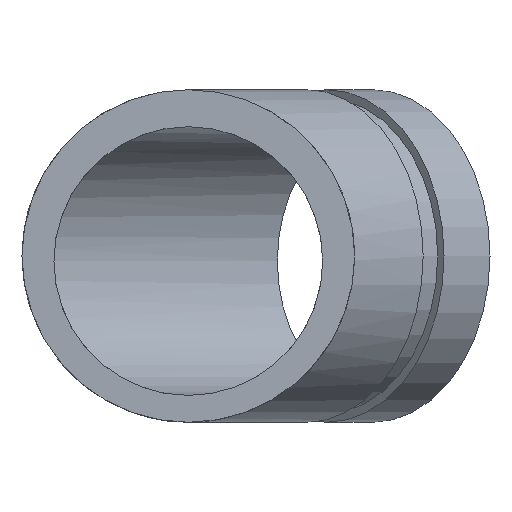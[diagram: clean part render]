
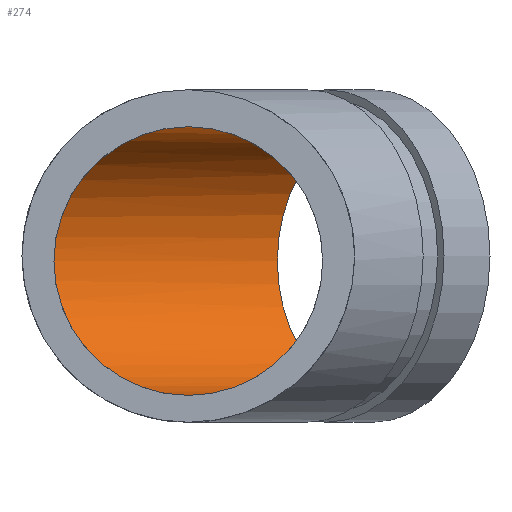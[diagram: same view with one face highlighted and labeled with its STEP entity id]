
A CAD part, front view. The second image highlights one B-rep face of the part: STEP entity #274.
In plain terms, the highlighted cylindrical face has radius 29.502 mm (diameter 59.004 mm), a full revolution.
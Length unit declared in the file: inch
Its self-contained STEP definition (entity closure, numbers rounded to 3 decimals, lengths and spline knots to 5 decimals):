
#45=ELLIPSE('',#322,1.2572,1.1615);
#46=ELLIPSE('',#323,1.2572,1.1615);
#47=ELLIPSE('',#324,1.2572,1.1615);
#72=FACE_OUTER_BOUND('',#90,.T.);
#90=EDGE_LOOP('',(#219,#220,#221,#222,#223,#224));
#102=LINE('',#510,#110);
#110=VECTOR('',#413,1.1615);
#128=CIRCLE('',#327,1.1615);
#143=VERTEX_POINT('',#498);
#144=VERTEX_POINT('',#499);
#145=VERTEX_POINT('',#501);
#147=VERTEX_POINT('',#508);
#169=EDGE_CURVE('',#143,#144,#45,.T.);
#170=EDGE_CURVE('',#143,#145,#46,.T.);
#171=EDGE_CURVE('',#144,#145,#47,.T.);
#174=EDGE_CURVE('',#147,#147,#128,.T.);
#175=EDGE_CURVE('',#147,#144,#102,.T.);
#219=ORIENTED_EDGE('',*,*,#174,.F.);
#220=ORIENTED_EDGE('',*,*,#175,.T.);
#221=ORIENTED_EDGE('',*,*,#171,.T.);
#222=ORIENTED_EDGE('',*,*,#170,.F.);
#223=ORIENTED_EDGE('',*,*,#169,.T.);
#224=ORIENTED_EDGE('',*,*,#175,.F.);
#246=CYLINDRICAL_SURFACE('',#326,1.1615);
#274=ADVANCED_FACE('',(#72),#246,.F.);
#322=AXIS2_PLACEMENT_3D('',#500,#400,#401);
#323=AXIS2_PLACEMENT_3D('',#502,#402,#403);
#324=AXIS2_PLACEMENT_3D('',#503,#404,#405);
#326=AXIS2_PLACEMENT_3D('',#507,#409,#410);
#327=AXIS2_PLACEMENT_3D('',#509,#411,#412);
#400=DIRECTION('center_axis',(-0.383,-0.924,0.));
#401=DIRECTION('ref_axis',(0.924,-0.383,0.));
#402=DIRECTION('center_axis',(0.383,0.924,0.));
#403=DIRECTION('ref_axis',(0.924,-0.383,0.));
#404=DIRECTION('center_axis',(-0.383,-0.924,0.));
#405=DIRECTION('ref_axis',(0.924,-0.383,0.));
#409=DIRECTION('center_axis',(-0.707,-0.707,0.));
#410=DIRECTION('ref_axis',(0.707,-0.707,0.));
#411=DIRECTION('center_axis',(-0.707,-0.707,0.));
#412=DIRECTION('ref_axis',(0.707,-0.707,0.));
#413=DIRECTION('',(-0.707,-0.707,0.));
#498=CARTESIAN_POINT('',(0.,0.,1.11782));
#499=CARTESIAN_POINT('',(-1.1615,0.48111,-0.04368));
#500=CARTESIAN_POINT('Origin',(0.,0.,-0.04368));
#501=CARTESIAN_POINT('',(0.,0.,-1.20518));
#502=CARTESIAN_POINT('Origin',(0.,0.,-0.04368));
#503=CARTESIAN_POINT('Origin',(0.,0.,-0.04368));
#507=CARTESIAN_POINT('Origin',(1.59099,1.59099,-0.04368));
#508=CARTESIAN_POINT('',(0.76969,2.41229,-0.04368));
#509=CARTESIAN_POINT('Origin',(1.59099,1.59099,-0.04368));
#510=CARTESIAN_POINT('',(0.76969,2.41229,-0.04368));
